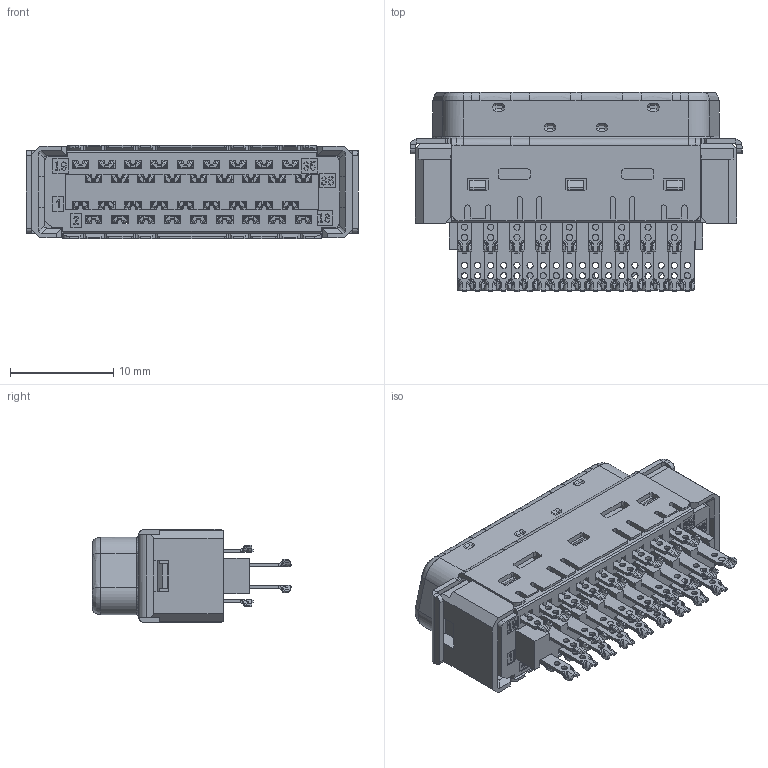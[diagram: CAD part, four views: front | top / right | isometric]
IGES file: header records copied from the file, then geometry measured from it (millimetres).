
Start section: ZWSOFT
Global section: file name: 6320M-XXXSSXXMNA01.igs; native system: ZW3D; preprocessor: 1.0; author: ZW3D; organization: ZWSOFT; date: 231106.115241; units: millimetre
Bounding box: 32.16 x 19.28 x 9.1 mm (x, y, z)
Surface area: 7099 mm2 (no closed solid volume)
Topology: 0 solids, 0 shells, 8904 faces, 50501 edges, 50336 vertices
Faces by surface type: bspline 8904
